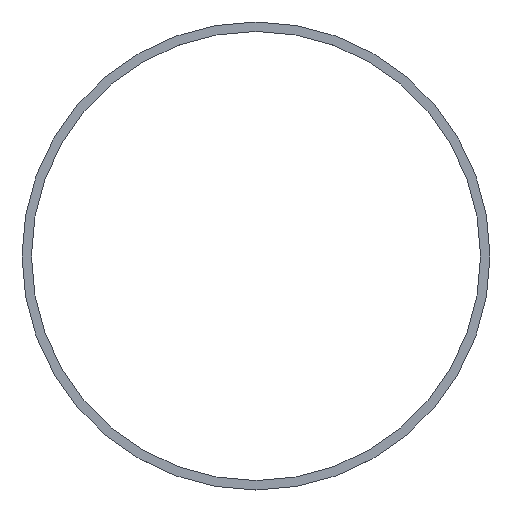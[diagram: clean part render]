
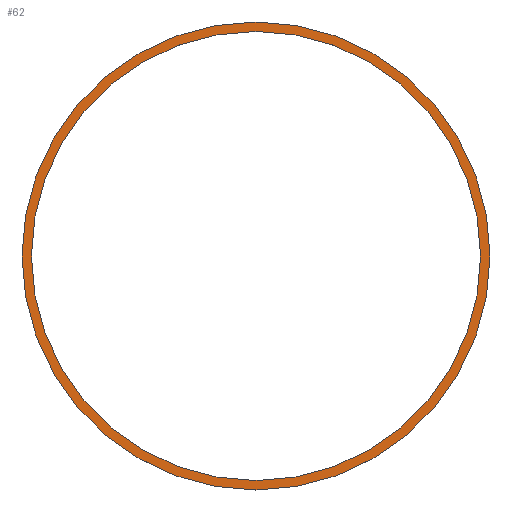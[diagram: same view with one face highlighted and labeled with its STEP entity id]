
A CAD part, top view. The second image highlights one B-rep face of the part: STEP entity #62.
In plain terms, the highlighted planar face has unit normal (0, 0, 1).
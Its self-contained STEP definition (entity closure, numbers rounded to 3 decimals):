
#15=FACE_BOUND('',#25,.T.);
#17=PLANE('',#82);
#20=FACE_OUTER_BOUND('',#24,.T.);
#24=EDGE_LOOP('',(#51));
#25=EDGE_LOOP('',(#52));
#33=CIRCLE('',#80,19.8);
#35=CIRCLE('',#83,19.);
#37=VERTEX_POINT('',#109);
#39=VERTEX_POINT('',#115);
#41=EDGE_CURVE('',#37,#37,#33,.T.);
#44=EDGE_CURVE('',#39,#39,#35,.T.);
#51=ORIENTED_EDGE('',*,*,#41,.T.);
#52=ORIENTED_EDGE('',*,*,#44,.F.);
#62=ADVANCED_FACE('',(#20,#15),#17,.T.);
#80=AXIS2_PLACEMENT_3D('',#110,#91,#92);
#82=AXIS2_PLACEMENT_3D('',#114,#96,#97);
#83=AXIS2_PLACEMENT_3D('',#116,#98,#99);
#91=DIRECTION('center_axis',(0.,0.,1.));
#92=DIRECTION('ref_axis',(1.,0.,0.));
#96=DIRECTION('center_axis',(0.,0.,1.));
#97=DIRECTION('ref_axis',(1.,0.,0.));
#98=DIRECTION('center_axis',(0.,0.,1.));
#99=DIRECTION('ref_axis',(1.,0.,0.));
#109=CARTESIAN_POINT('',(-19.8,42.,-2.2));
#110=CARTESIAN_POINT('Origin',(0.,42.,-2.2));
#114=CARTESIAN_POINT('Origin',(0.,42.,-2.2));
#115=CARTESIAN_POINT('',(-19.,42.,-2.2));
#116=CARTESIAN_POINT('Origin',(0.,42.,-2.2));
